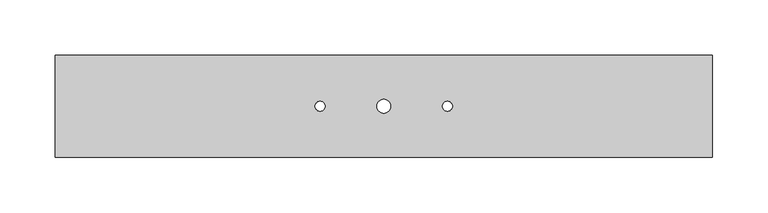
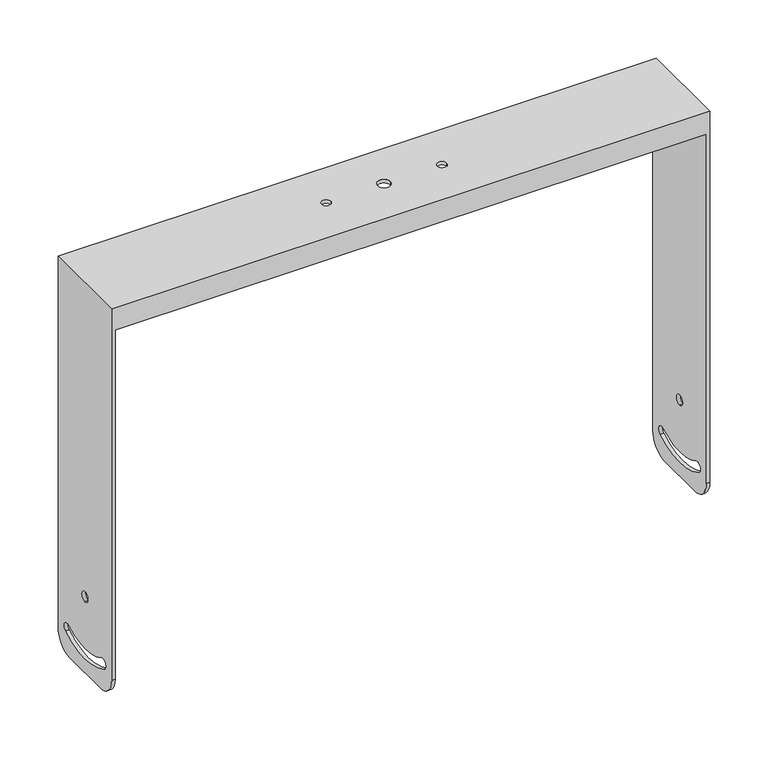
"""IFC4 building model written with IfcOpenShell, lengths in millimetres: proxy geometry, d&b xS-Series 18 l 27S Sub Horizontal Bracket : 18S l 27S Sub Horizontal Bracket."""

from ifc_helpers import new_model, si_unit, frame, origin, place, context, project, spatial, polyline, circle_curve, source, transform, mapped, element, save
from ifc_brep_helpers import plane_surface, cylinder_surface, revolved_surface, advanced_brep


def communication_devices_844caf4c(model_context):
    return source(origin(), model_context, "Body", "AdvancedBrep", [
        advanced_brep(
        [(-293.5, 14.7997031, -52.1512415), (-293.5, 34.7997031, -32.1512415), (-293.5, 34.7997031, 334.8487585), (-293.5, 31.7997031, 334.8487585), (-293.5, 31.7997031, 354.3487585), (-293.5, -54.2002969, 354.3487585), (-293.5, -54.2002969, 334.8487585), (-293.5, -57.2002969, 334.8487585), (-293.5, -57.2002969, -32.1512415), (-293.5, -37.2002969, -52.1512415), (-293.5, -11.2002969, 22.6487585), (-293.5, -11.2002969, 33.0487585), (-293.5, -39.0119156, -19.3014333), (-293.5, 16.6113217, -19.3014333), (-293.5, 21.9301241, -28.2384541), (-293.5, -44.3307179, -28.2384541), (-297.0, 14.7997031, -52.1512415), (-297.0, -37.2002969, -52.1512415), (-297.0, -57.2002969, -32.1512415), (-297.0, -57.2002969, 357.8487585), (-297.0, 34.7997031, 357.8487585), (-297.0, 34.7997031, -32.1512415), (-297.0, -11.2002969, 22.6487585), (-297.0, -11.2002969, 33.0487585), (-297.0, -39.0119156, -19.3014333), (-297.0, -44.3307179, -28.2384541), (-297.0, 21.9301241, -28.2384541), (-297.0, 16.6113217, -19.3014333), (297.0, 34.7997031, 357.8487585), (297.0, 34.7997031, -32.1512415), (293.5, 34.7997031, -32.1512415), (293.5, 34.7997031, 334.8487585), (293.5, -57.2002969, 334.8487585), (293.5, -57.2002969, -32.1512415), (297.0, -57.2002969, -32.1512415), (297.0, -57.2002969, 357.8487585), (293.5, 31.7997031, 334.8487585), (293.5, 31.7997031, 354.3487585), (293.5, -54.2002969, 334.8487585), (293.5, -54.2002969, 354.3487585), (293.5, 14.7997031, -52.1512415), (293.5, -37.2002969, -52.1512415), (293.5, -11.2002969, 22.6487585), (293.5, -11.2002969, 33.0487585), (293.5, -39.0119156, -19.3014333), (293.5, -44.3307179, -28.2384541), (293.5, 21.9301241, -28.2384541), (293.5, 16.6113217, -19.3014333), (297.0, 14.7997031, -52.1512415), (297.0, -37.2002969, -52.1512415), (297.0, -11.2002969, 33.0487585), (297.0, -11.2002969, 22.6487585), (297.0, 16.6113217, -19.3014333), (297.0, -39.0119156, -19.3014333), (297.0, 21.9301241, -28.2384541), (297.0, -44.3307179, -28.2384541), (-6.25, -11.2002969, 357.8487585), (6.25, -11.2002969, 357.8487585), (-62.0, -11.2002969, 357.8487585), (-53.0, -11.2002969, 357.8487585), (53.0, -11.2002969, 357.8487585), (62.0, -11.2002969, 357.8487585), (-6.25, -11.2002969, 354.3487585), (6.25, -11.2002969, 354.3487585), (-62.0, -11.2002969, 354.3487585), (-53.0, -11.2002969, 354.3487585), (53.0, -11.2002969, 354.3487585), (62.0, -11.2002969, 354.3487585)],
        [
            (0, 1, circle_curve(frame((-293.5, 14.7997031, -32.1512415), z_axis=(1.0, 0.0, 0.0), x_axis=(0.0, 0.0, 1.0)), 20.0)),
            (1, 2),
            (2, 3),
            (3, 4),
            (4, 5),
            (5, 6),
            (6, 7),
            (7, 8),
            (8, 9, circle_curve(frame((-293.5, -37.2002969, -32.1512415), z_axis=(1.0, 0.0, 0.0), x_axis=(0.0, 0.0, 1.0)), 20.0)),
            (9, 0),
            (10, 11, circle_curve(frame((-293.5, -11.2002969, 27.8487585), z_axis=(-1.0, 0.0, 0.0), x_axis=(0.0, 0.0, 1.0)), 5.2)),
            (11, 10, circle_curve(frame((-293.5, -11.2002969, 27.8487585), z_axis=(-1.0, 0.0, 0.0), x_axis=(0.0, 0.0, 1.0)), 5.2)),
            (12, 13, circle_curve(frame((-293.5, -11.2002969, 27.4295789), z_axis=(1.0, 0.0, 0.0), x_axis=(0.0, 0.0, 1.0)), 54.3808204)),
            (13, 14, circle_curve(frame((-293.5, 19.2707229, -23.7699437), z_axis=(-1.0, 0.0, 0.0), x_axis=(0.0, 0.0, 1.0)), 5.2)),
            (14, 15, circle_curve(frame((-293.5, -11.2002969, 27.4295789), z_axis=(-1.0, 0.0, 0.0), x_axis=(0.0, 0.0, 1.0)), 64.7808204)),
            (15, 12, circle_curve(frame((-293.5, -41.6713167, -23.7699437), z_axis=(-1.0, 0.0, 0.0), x_axis=(0.0, 0.0, 1.0)), 5.2)),
            (16, 17),
            (17, 18, circle_curve(frame((-297.0, -37.2002969, -32.1512415), z_axis=(-1.0, 0.0, 0.0), x_axis=(0.0, 0.0, 1.0)), 20.0)),
            (18, 19),
            (19, 20),
            (20, 21),
            (21, 16, circle_curve(frame((-297.0, 14.7997031, -32.1512415), z_axis=(-1.0, 0.0, 0.0), x_axis=(0.0, 0.0, 1.0)), 20.0)),
            (22, 23, circle_curve(frame((-297.0, -11.2002969, 27.8487585), z_axis=(1.0, 0.0, 0.0), x_axis=(0.0, 0.0, 1.0)), 5.2)),
            (23, 22, circle_curve(frame((-297.0, -11.2002969, 27.8487585), z_axis=(1.0, 0.0, 0.0), x_axis=(0.0, 0.0, 1.0)), 5.2)),
            (24, 25, circle_curve(frame((-297.0, -41.6713167, -23.7699437), z_axis=(1.0, 0.0, 0.0), x_axis=(0.0, 0.0, 1.0)), 5.2)),
            (25, 26, circle_curve(frame((-297.0, -11.2002969, 27.4295789), z_axis=(1.0, 0.0, 0.0), x_axis=(0.0, 0.0, 1.0)), 64.7808204)),
            (26, 27, circle_curve(frame((-297.0, 19.2707229, -23.7699437), z_axis=(1.0, 0.0, 0.0), x_axis=(0.0, 0.0, 1.0)), 5.2)),
            (27, 24, circle_curve(frame((-297.0, -11.2002969, 27.4295789), z_axis=(-1.0, 0.0, 0.0), x_axis=(0.0, 0.0, 1.0)), 54.3808204)),
            (0, 16),
            (21, 1),
            (20, 28),
            (28, 29),
            (29, 30),
            (30, 31),
            (31, 2),
            (18, 8),
            (7, 32),
            (32, 33),
            (33, 34),
            (34, 35),
            (35, 19),
            (17, 9),
            (10, 22),
            (23, 11),
            (12, 24),
            (27, 13),
            (26, 14),
            (25, 15),
            (3, 36),
            (36, 37),
            (37, 4),
            (31, 36),
            (6, 38),
            (38, 32),
            (5, 39),
            (39, 38),
            (40, 41),
            (41, 33, circle_curve(frame((293.5, -37.2002969, -32.1512415), z_axis=(-1.0, 0.0, 0.0), x_axis=(0.0, 0.0, 1.0)), 20.0)),
            (39, 37),
            (30, 40, circle_curve(frame((293.5, 14.7997031, -32.1512415), z_axis=(-1.0, 0.0, 0.0), x_axis=(0.0, 0.0, 1.0)), 20.0)),
            (42, 43, circle_curve(frame((293.5, -11.2002969, 27.8487585), z_axis=(1.0, 0.0, 0.0), x_axis=(0.0, 0.0, 1.0)), 5.2)),
            (43, 42, circle_curve(frame((293.5, -11.2002969, 27.8487585), z_axis=(1.0, 0.0, 0.0), x_axis=(0.0, 0.0, 1.0)), 5.2)),
            (44, 45, circle_curve(frame((293.5, -41.6713167, -23.7699437), z_axis=(1.0, 0.0, 0.0), x_axis=(0.0, 0.0, 1.0)), 5.2)),
            (45, 46, circle_curve(frame((293.5, -11.2002969, 27.4295789), z_axis=(1.0, 0.0, 0.0), x_axis=(0.0, 0.0, 1.0)), 64.7808204)),
            (46, 47, circle_curve(frame((293.5, 19.2707229, -23.7699437), z_axis=(1.0, 0.0, 0.0), x_axis=(0.0, 0.0, 1.0)), 5.2)),
            (47, 44, circle_curve(frame((293.5, -11.2002969, 27.4295789), z_axis=(-1.0, 0.0, 0.0), x_axis=(0.0, 0.0, 1.0)), 54.3808204)),
            (29, 48, circle_curve(frame((297.0, 14.7997031, -32.1512415), z_axis=(-1.0, 0.0, 0.0), x_axis=(0.0, 0.0, 1.0)), 20.0)),
            (48, 40),
            (49, 34, circle_curve(frame((297.0, -37.2002969, -32.1512415), z_axis=(-1.0, 0.0, 0.0), x_axis=(0.0, 0.0, 1.0)), 20.0)),
            (41, 49),
            (48, 49),
            (50, 51, circle_curve(frame((297.0, -11.2002969, 27.8487585), z_axis=(1.0, 0.0, 0.0), x_axis=(0.0, 0.0, 1.0)), 5.2)),
            (51, 42),
            (43, 50),
            (51, 50, circle_curve(frame((297.0, -11.2002969, 27.8487585), z_axis=(1.0, 0.0, 0.0), x_axis=(0.0, 0.0, 1.0)), 5.2)),
            (52, 53, circle_curve(frame((297.0, -11.2002969, 27.4295789), z_axis=(-1.0, 0.0, 0.0), x_axis=(0.0, 0.0, 1.0)), 54.3808204)),
            (53, 44),
            (47, 52),
            (54, 52, circle_curve(frame((297.0, 19.2707229, -23.7699437), z_axis=(1.0, 0.0, 0.0), x_axis=(0.0, 0.0, 1.0)), 5.2)),
            (46, 54),
            (55, 54, circle_curve(frame((297.0, -11.2002969, 27.4295789), z_axis=(1.0, 0.0, 0.0), x_axis=(0.0, 0.0, 1.0)), 64.7808204)),
            (45, 55),
            (53, 55, circle_curve(frame((297.0, -41.6713167, -23.7699437), z_axis=(1.0, 0.0, 0.0), x_axis=(0.0, 0.0, 1.0)), 5.2)),
            (35, 28),
            (56, 57, circle_curve(frame((0.0, -11.2002969, 357.8487585), z_axis=(0.0, 0.0, -1.0), x_axis=(1.0, 0.0, 0.0)), 6.25)),
            (57, 56, circle_curve(frame((0.0, -11.2002969, 357.8487585), z_axis=(0.0, 0.0, -1.0), x_axis=(1.0, 0.0, 0.0)), 6.25)),
            (58, 59, circle_curve(frame((-57.5, -11.2002969, 357.8487585), z_axis=(0.0, 0.0, -1.0), x_axis=(1.0, 0.0, 0.0)), 4.5)),
            (59, 58, circle_curve(frame((-57.5, -11.2002969, 357.8487585), z_axis=(0.0, 0.0, -1.0), x_axis=(1.0, 0.0, 0.0)), 4.5)),
            (60, 61, circle_curve(frame((57.5, -11.2002969, 357.8487585), z_axis=(0.0, 0.0, -1.0), x_axis=(1.0, 0.0, 0.0)), 4.5)),
            (61, 60, circle_curve(frame((57.5, -11.2002969, 357.8487585), z_axis=(0.0, 0.0, -1.0), x_axis=(1.0, 0.0, 0.0)), 4.5)),
            (62, 63, circle_curve(frame((0.0, -11.2002969, 354.3487585), z_axis=(0.0, 0.0, 1.0), x_axis=(1.0, 0.0, 0.0)), 6.25)),
            (63, 62, circle_curve(frame((0.0, -11.2002969, 354.3487585), z_axis=(0.0, 0.0, 1.0), x_axis=(1.0, 0.0, 0.0)), 6.25)),
            (64, 65, circle_curve(frame((-57.5, -11.2002969, 354.3487585), z_axis=(0.0, 0.0, 1.0), x_axis=(1.0, 0.0, 0.0)), 4.5)),
            (65, 64, circle_curve(frame((-57.5, -11.2002969, 354.3487585), z_axis=(0.0, 0.0, 1.0), x_axis=(1.0, 0.0, 0.0)), 4.5)),
            (66, 67, circle_curve(frame((57.5, -11.2002969, 354.3487585), z_axis=(0.0, 0.0, 1.0), x_axis=(1.0, 0.0, 0.0)), 4.5)),
            (67, 66, circle_curve(frame((57.5, -11.2002969, 354.3487585), z_axis=(0.0, 0.0, 1.0), x_axis=(1.0, 0.0, 0.0)), 4.5)),
            (56, 62),
            (63, 57),
            (58, 64),
            (65, 59),
            (60, 66),
            (67, 61),
        ],
        [
            plane_surface(frame((-293.5, 14.7997031, -12.1512415), z_axis=(1.0, 0.0, 0.0), x_axis=(0.0, -1.0, 0.0))),
            plane_surface(frame((-297.0, 14.7997031, -12.1512415), z_axis=(-1.0, 0.0, 0.0), x_axis=(0.0, 1.0, 0.0))),
            cylinder_surface(frame((-297.0, 14.7997031, -32.1512415), z_axis=(1.0, 0.0, 0.0), x_axis=(0.0, 0.0, 1.0)), 20.0),
            plane_surface(frame((-293.5, 34.7997031, -32.1512415), z_axis=(0.0, 1.0, 0.0), x_axis=(-1.0, 0.0, 0.0))),
            plane_surface(frame((-293.5, -57.2002969, 354.3487585), z_axis=(0.0, -1.0, 0.0), x_axis=(-1.0, 0.0, 0.0))),
            cylinder_surface(frame((-297.0, -37.2002969, -32.1512415), z_axis=(1.0, 0.0, 0.0), x_axis=(0.0, 0.0, 1.0)), 20.0),
            plane_surface(frame((-293.5, -37.2002969, -52.1512415), z_axis=(0.0, 0.0, -1.0), x_axis=(-1.0, 0.0, 0.0))),
            revolved_surface(polyline([(-297.0, -11.2002969, 33.0487585), (-293.5, -11.2002969, 33.0487585)]), (0.0, -11.2002969, 27.8487585), (-1.0, 0.0, 0.0)),
            cylinder_surface(frame((0.0, -11.2002969, 27.4295789), z_axis=(1.0, 0.0, 0.0), x_axis=(0.0, 0.0, 1.0)), 54.3808204),
            revolved_surface(polyline([(-297.0, 19.2707229, -18.5699437), (-293.5, 19.2707229, -18.5699437)]), (0.0, 19.2707229, -23.7699437), (-1.0, 0.0, 0.0)),
            revolved_surface(polyline([(-297.0, -11.2002969, 92.21039929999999), (-293.5, -11.2002969, 92.21039929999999)]), (0.0, -11.2002969, 27.4295789), (-1.0, 0.0, 0.0)),
            revolved_surface(polyline([(-297.0, -41.6713167, -18.5699437), (-293.5, -41.6713167, -18.5699437)]), (0.0, -41.6713167, -23.7699437), (-1.0, 0.0, 0.0)),
            plane_surface(frame((293.5, 31.7997031, 354.3487585), z_axis=(0.0, -1.0, 0.0), x_axis=(-1.0, 0.0, 0.0))),
            plane_surface(frame((293.5, 31.7997031, 334.8487585), z_axis=(0.0, 0.0, -1.0), x_axis=(-1.0, 0.0, 0.0))),
            plane_surface(frame((293.5, -57.2002969, 334.8487585), z_axis=(0.0, 0.0, -1.0), x_axis=(-1.0, 0.0, 0.0))),
            plane_surface(frame((293.5, -54.2002969, 334.8487585), z_axis=(0.0, 1.0, 0.0), x_axis=(-1.0, 0.0, 0.0))),
            plane_surface(frame((293.5, 14.7997031, -12.1512415), z_axis=(-1.0, 0.0, 0.0), x_axis=(0.0, 1.0, 0.0))),
            cylinder_surface(frame((293.5, 14.7997031, -32.1512415), z_axis=(1.0, 0.0, 0.0), x_axis=(0.0, 0.0, 1.0)), 20.0),
            cylinder_surface(frame((293.5, -37.2002969, -32.1512415), z_axis=(1.0, 0.0, 0.0), x_axis=(0.0, 0.0, 1.0)), 20.0),
            plane_surface(frame((297.0, -37.2002969, -52.1512415), z_axis=(0.0, 0.0, -1.0), x_axis=(-1.0, 0.0, 0.0))),
            revolved_surface(polyline([(293.5, -11.2002969, 33.0487585), (297.0, -11.2002969, 33.0487585)]), (0.0, -11.2002969, 27.8487585), (-1.0, 0.0, 0.0)),
            revolved_surface(polyline([(293.5, 19.2707229, -18.5699437), (297.0, 19.2707229, -18.5699437)]), (0.0, 19.2707229, -23.7699437), (-1.0, 0.0, 0.0)),
            revolved_surface(polyline([(293.5, -11.2002969, 92.21039929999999), (297.0, -11.2002969, 92.21039929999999)]), (0.0, -11.2002969, 27.4295789), (-1.0, 0.0, 0.0)),
            revolved_surface(polyline([(293.5, -41.6713167, -18.5699437), (297.0, -41.6713167, -18.5699437)]), (0.0, -41.6713167, -23.7699437), (-1.0, 0.0, 0.0)),
            plane_surface(frame((297.0, 34.7997031, 357.8487585), z_axis=(0.0, 0.0, 1.0), x_axis=(-1.0, 0.0, 0.0))),
            plane_surface(frame((297.0, 14.7997031, -12.1512415), z_axis=(1.0, 0.0, 0.0), x_axis=(0.0, -1.0, 0.0))),
            plane_surface(frame((-297.0, 34.7997031, 354.3487585), z_axis=(0.0, 0.0, -1.0), x_axis=(1.0, 0.0, 0.0))),
            revolved_surface(polyline([(6.25, -11.2002969, 354.34875850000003), (6.25, -11.2002969, 357.84875850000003)]), (0.0, -11.2002969, 82.8487585), (0.0, 0.0, -1.0)),
            revolved_surface(polyline([(-53.0, -11.2002969, 354.34875850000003), (-53.0, -11.2002969, 357.84875850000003)]), (-57.5, -11.2002969, 82.8487585), (0.0, 0.0, -1.0)),
            revolved_surface(polyline([(62.0, -11.2002969, 354.34875850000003), (62.0, -11.2002969, 357.84875850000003)]), (57.5, -11.2002969, 82.8487585), (0.0, 0.0, -1.0)),
        ],
        [
            (0, [[1, 2, 3, 4, 5, 6, 7, 8, 9, 10], [11, 12], [13, 14, 15, 16]]),
            (1, [[17, 18, 19, 20, 21, 22], [23, 24], [25, 26, 27, 28]]),
            (2, [[-1, 29, -22, 30]]),
            (3, [[-21, 31, 32, 33, 34, 35, -2, -30]]),
            (4, [[-19, 36, -8, 37, 38, 39, 40, 41]]),
            (5, [[-9, -36, -18, 42]]),
            (6, [[-10, -42, -17, -29]]),
            (7, [[-11, 43, -24, 44]]),
            (7, [[-12, -44, -23, -43]]),
            (8, [[-13, 45, -28, 46]]),
            (9, [[-14, -46, -27, 47]]),
            (10, [[-15, -47, -26, 48]]),
            (11, [[-16, -48, -25, -45]]),
            (12, [[49, 50, 51, -4]]),
            (13, [[-49, -3, -35, 52]]),
            (14, [[-37, -7, 53, 54]]),
            (15, [[-53, -6, 55, 56]]),
            (16, [[57, 58, -38, -54, -56, 59, -50, -52, -34, 60], [61, 62], [63, 64, 65, 66]]),
            (17, [[67, 68, -60, -33]]),
            (18, [[69, -39, -58, 70]]),
            (19, [[71, -70, -57, -68]]),
            (20, [[72, 73, -62, 74]]),
            (20, [[75, -74, -61, -73]]),
            (8, [[76, 77, -66, 78]]),
            (21, [[79, -78, -65, 80]]),
            (22, [[81, -80, -64, 82]]),
            (23, [[83, -82, -63, -77]]),
            (24, [[-41, 84, -31, -20], [85, 86], [87, 88], [89, 90]]),
            (25, [[-67, -32, -84, -40, -69, -71], [-72, -75], [-76, -79, -81, -83]]),
            (26, [[-5, -51, -59, -55], [91, 92], [93, 94], [95, 96]]),
            (27, [[-85, 97, -92, 98]]),
            (27, [[-86, -98, -91, -97]]),
            (28, [[-87, 99, -94, 100]]),
            (28, [[-88, -100, -93, -99]]),
            (29, [[-89, 101, -96, 102]]),
            (29, [[-90, -102, -95, -101]]),
        ],
    ),
    ])


if __name__ == "__main__":
    model = new_model("IFC4")
    model_context = context("Model", 3, world=origin())
    ifc_project = project(units=[si_unit("LENGTHUNIT", "METRE", prefix="MILLI")], contexts=[model_context])
    site = spatial("IfcSite", under=ifc_project)
    building = spatial("IfcBuilding", under=site)
    placement = place(None, origin())
    communication_devices_shape = communication_devices_844caf4c(model_context)
    element("IfcBuildingElementProxy", 1, Name="d&b xS-Series 18 l 27S Sub Horizontal Bracket : 18S l 27S Sub Horizontal Bracket", ObjectType="d&b xS-Series 18 l 27S Sub Horizontal Bracket : 18S l 27S Sub Horizontal Bracket", at=placement, inside=building, context=model_context, shape_type="MappedRepresentation", body=[
        mapped(communication_devices_shape, transform((0.0, 0.0, 0.0), x_axis=(1.0, 0.0, 0.0), y_axis=(0.0, 1.0, 0.0), z_axis=(0.0, 0.0, 1.0))),
    ])
    save(model, "model.ifc")
